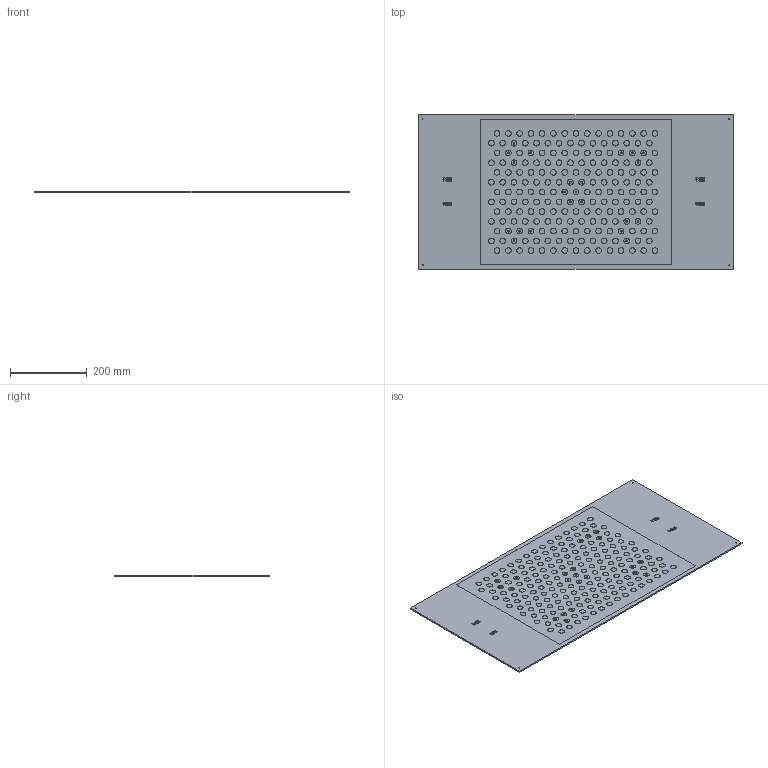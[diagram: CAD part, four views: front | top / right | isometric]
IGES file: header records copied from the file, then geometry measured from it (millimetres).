
Global section: file name: 153-13576_ZCP 500-13x15-X01_NEU; native system: Autodesk Inventor 2022; preprocessor: unknown; author: ss; date: 20220628.115903; units: millimetre
Bounding box: 820 x 403 x 4.05 mm (x, y, z)
Volume: 1329695.2 mm3; surface area: 671355.3 mm2
Topology: 1 solids, 1 shells, 1238 faces, 2864 edges, 1953 vertices
Faces by surface type: bspline 1238
